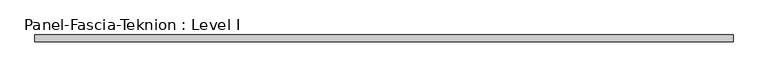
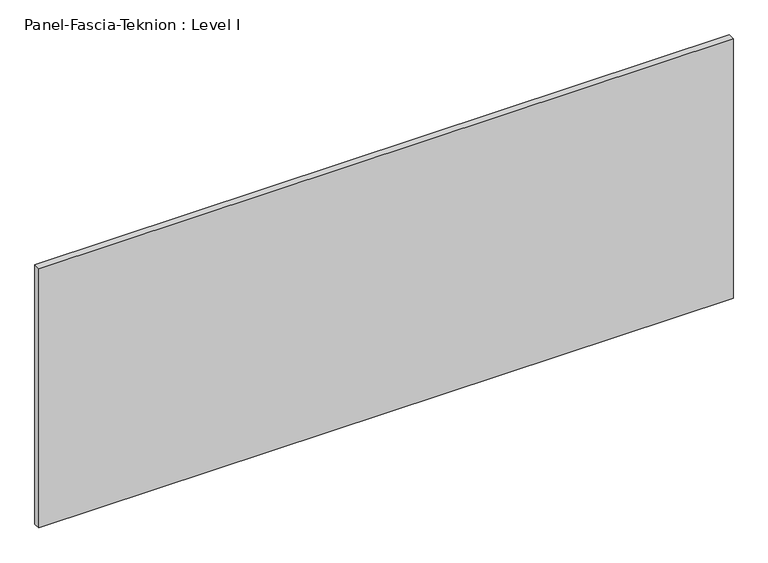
"""IFC4 building model written with IfcOpenShell, lengths in millimetres: proxy geometry, Panel-Fascia-Teknion : Level I."""

from ifc_helpers import new_model, si_unit, frame, origin, place, context, project, spatial, polyline, outline, extrude, source, transform, mapped, element, save


def panel_fascia_teknion_level_i_f9dcfb35(model_context):
    return source(origin(), model_context, "Body", "SweptSolid", [
        extrude(outline(polyline([(962.6147563, -9.525), (-962.6147562, -9.525), (-962.6147562, 9.525), (962.6147563, 9.525), (962.6147563, -9.525)])), frame((0.0, 0.0, 3.175), z_axis=(0.0, 0.0, 1.0), x_axis=(1.0, 0.0, 0.0)), (0.0, 0.0, 1.0), 759.968),
    ])


if __name__ == "__main__":
    model = new_model("IFC4")
    model_context = context("Model", 3, world=origin())
    ifc_project = project(units=[si_unit("LENGTHUNIT", "METRE", prefix="MILLI")], contexts=[model_context])
    site = spatial("IfcSite", under=ifc_project)
    building = spatial("IfcBuilding", under=site)
    placement = place(None, origin())
    panel_fascia_teknion_level_i_shape = panel_fascia_teknion_level_i_f9dcfb35(model_context)
    element("IfcBuildingElementProxy", 1, Name="Panel-Fascia-Teknion : Level I", ObjectType="Panel-Fascia-Teknion : Level I", at=placement, inside=building, context=model_context, shape_type="MappedRepresentation", body=[
        mapped(panel_fascia_teknion_level_i_shape, transform((0.0, 0.0, 0.0), x_axis=(1.0, 0.0, 0.0), y_axis=(0.0, 1.0, 0.0), z_axis=(0.0, 0.0, 1.0))),
    ])
    save(model, "model.ifc")
